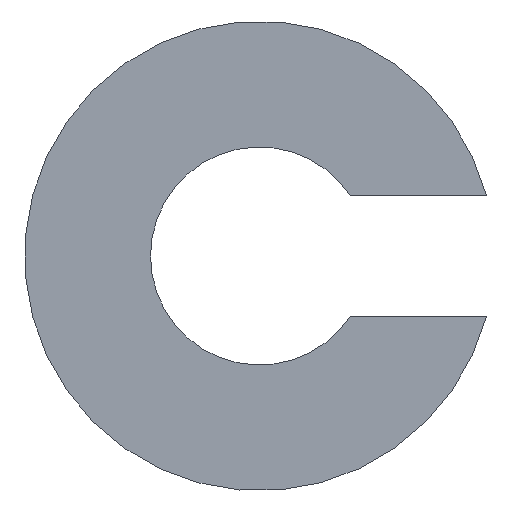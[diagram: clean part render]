
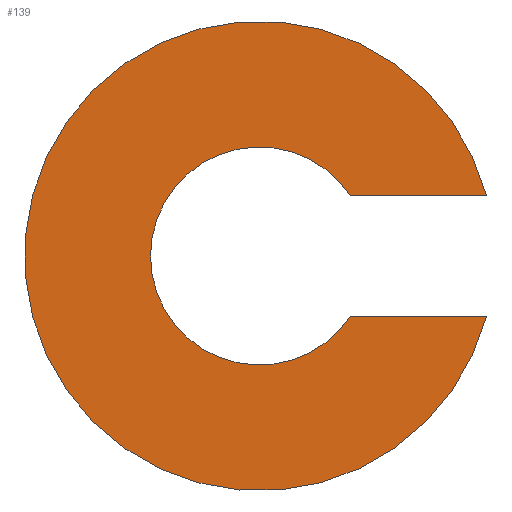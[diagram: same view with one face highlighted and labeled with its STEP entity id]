
A CAD part, front view. The second image highlights one B-rep face of the part: STEP entity #139.
In plain terms, the highlighted planar face has unit normal (0, -1, 0).
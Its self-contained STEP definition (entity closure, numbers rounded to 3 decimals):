
#21 = EDGE_CURVE('',#22,#24,#26,.T.);
#22 = VERTEX_POINT('',#23);
#23 = CARTESIAN_POINT('',(75.308,39.15,13.53));
#24 = VERTEX_POINT('',#25);
#25 = CARTESIAN_POINT('',(75.308,39.15,14.17));
#26 = SURFACE_CURVE('',#27,(#32,#44),.PCURVE_S1.);
#27 = CIRCLE('',#28,1.25);
#28 = AXIS2_PLACEMENT_3D('',#29,#30,#31);
#29 = CARTESIAN_POINT('',(74.1,39.15,13.85));
#30 = DIRECTION('',(0.,1.,0.));
#31 = DIRECTION('',(0.967,0.,-0.256));
#32 = PCURVE('',#33,#38);
#33 = CYLINDRICAL_SURFACE('',#34,1.25);
#34 = AXIS2_PLACEMENT_3D('',#35,#36,#37);
#35 = CARTESIAN_POINT('',(74.1,39.15,13.85));
#36 = DIRECTION('',(0.,1.,0.));
#37 = DIRECTION('',(0.,-0.,1.));
#38 = DEFINITIONAL_REPRESENTATION('',(#39),#43);
#39 = LINE('',#40,#41);
#40 = CARTESIAN_POINT('',(1.83,0.));
#41 = VECTOR('',#42,1.);
#42 = DIRECTION('',(1.,0.));
#43 = ( GEOMETRIC_REPRESENTATION_CONTEXT(2) 
PARAMETRIC_REPRESENTATION_CONTEXT() REPRESENTATION_CONTEXT('2D SPACE',''
  ) );
#44 = PCURVE('',#45,#50);
#45 = PLANE('',#46);
#46 = AXIS2_PLACEMENT_3D('',#47,#48,#49);
#47 = CARTESIAN_POINT('',(74.1,39.15,13.85));
#48 = DIRECTION('',(0.,1.,0.));
#49 = DIRECTION('',(0.,-0.,1.));
#50 = DEFINITIONAL_REPRESENTATION('',(#51),#55);
#51 = CIRCLE('',#52,1.25);
#52 = AXIS2_PLACEMENT_2D('',#53,#54);
#53 = CARTESIAN_POINT('',(0.,0.));
#54 = DIRECTION('',(-0.256,0.967));
#55 = ( GEOMETRIC_REPRESENTATION_CONTEXT(2) 
PARAMETRIC_REPRESENTATION_CONTEXT() REPRESENTATION_CONTEXT('2D SPACE',''
  ) );
#72 = PLANE('',#73);
#73 = AXIS2_PLACEMENT_3D('',#74,#75,#76);
#74 = CARTESIAN_POINT('',(74.1,39.1,14.17));
#75 = DIRECTION('',(0.,0.,1.));
#76 = DIRECTION('',(1.,0.,-0.));
#129 = PLANE('',#130);
#130 = AXIS2_PLACEMENT_3D('',#131,#132,#133);
#131 = CARTESIAN_POINT('',(74.1,39.1,13.53));
#132 = DIRECTION('',(0.,0.,1.));
#133 = DIRECTION('',(1.,0.,-0.));
#139 = ADVANCED_FACE('',(#140),#45,.F.);
#140 = FACE_BOUND('',#141,.F.);
#141 = EDGE_LOOP('',(#142,#143,#164,#193));
#142 = ORIENTED_EDGE('',*,*,#21,.T.);
#143 = ORIENTED_EDGE('',*,*,#144,.F.);
#144 = EDGE_CURVE('',#145,#24,#147,.T.);
#145 = VERTEX_POINT('',#146);
#146 = CARTESIAN_POINT('',(74.584,39.15,14.17));
#147 = SURFACE_CURVE('',#148,(#152,#158),.PCURVE_S1.);
#148 = LINE('',#149,#150);
#149 = CARTESIAN_POINT('',(74.1,39.15,14.17));
#150 = VECTOR('',#151,1.);
#151 = DIRECTION('',(1.,0.,0.));
#152 = PCURVE('',#45,#153);
#153 = DEFINITIONAL_REPRESENTATION('',(#154),#157);
#154 = B_SPLINE_CURVE_WITH_KNOTS('',1,(#155,#156),.UNSPECIFIED.,.F.,.F.,
  (2,2),(0.,1.25),.PIECEWISE_BEZIER_KNOTS.);
#155 = CARTESIAN_POINT('',(0.32,0.));
#156 = CARTESIAN_POINT('',(0.32,1.25));
#157 = ( GEOMETRIC_REPRESENTATION_CONTEXT(2) 
PARAMETRIC_REPRESENTATION_CONTEXT() REPRESENTATION_CONTEXT('2D SPACE',''
  ) );
#158 = PCURVE('',#72,#159);
#159 = DEFINITIONAL_REPRESENTATION('',(#160),#163);
#160 = B_SPLINE_CURVE_WITH_KNOTS('',1,(#161,#162),.UNSPECIFIED.,.F.,.F.,
  (2,2),(0.,1.25),.PIECEWISE_BEZIER_KNOTS.);
#161 = CARTESIAN_POINT('',(0.,0.05));
#162 = CARTESIAN_POINT('',(1.25,0.05));
#163 = ( GEOMETRIC_REPRESENTATION_CONTEXT(2) 
PARAMETRIC_REPRESENTATION_CONTEXT() REPRESENTATION_CONTEXT('2D SPACE',''
  ) );
#164 = ORIENTED_EDGE('',*,*,#165,.F.);
#165 = EDGE_CURVE('',#166,#145,#168,.T.);
#166 = VERTEX_POINT('',#167);
#167 = CARTESIAN_POINT('',(74.584,39.15,13.53));
#168 = SURFACE_CURVE('',#169,(#174,#181),.PCURVE_S1.);
#169 = CIRCLE('',#170,0.58);
#170 = AXIS2_PLACEMENT_3D('',#171,#172,#173);
#171 = CARTESIAN_POINT('',(74.1,39.15,13.85));
#172 = DIRECTION('',(0.,1.,0.));
#173 = DIRECTION('',(0.834,0.,-0.552));
#174 = PCURVE('',#45,#175);
#175 = DEFINITIONAL_REPRESENTATION('',(#176),#180);
#176 = CIRCLE('',#177,0.58);
#177 = AXIS2_PLACEMENT_2D('',#178,#179);
#178 = CARTESIAN_POINT('',(0.,0.));
#179 = DIRECTION('',(-0.552,0.834));
#180 = ( GEOMETRIC_REPRESENTATION_CONTEXT(2) 
PARAMETRIC_REPRESENTATION_CONTEXT() REPRESENTATION_CONTEXT('2D SPACE',''
  ) );
#181 = PCURVE('',#182,#187);
#182 = CYLINDRICAL_SURFACE('',#183,0.58);
#183 = AXIS2_PLACEMENT_3D('',#184,#185,#186);
#184 = CARTESIAN_POINT('',(74.1,39.1,13.85));
#185 = DIRECTION('',(0.,1.,0.));
#186 = DIRECTION('',(0.,-0.,1.));
#187 = DEFINITIONAL_REPRESENTATION('',(#188),#192);
#188 = LINE('',#189,#190);
#189 = CARTESIAN_POINT('',(2.155,0.05));
#190 = VECTOR('',#191,1.);
#191 = DIRECTION('',(1.,0.));
#192 = ( GEOMETRIC_REPRESENTATION_CONTEXT(2) 
PARAMETRIC_REPRESENTATION_CONTEXT() REPRESENTATION_CONTEXT('2D SPACE',''
  ) );
#193 = ORIENTED_EDGE('',*,*,#194,.T.);
#194 = EDGE_CURVE('',#166,#22,#195,.T.);
#195 = SURFACE_CURVE('',#196,(#200,#206),.PCURVE_S1.);
#196 = LINE('',#197,#198);
#197 = CARTESIAN_POINT('',(74.1,39.15,13.53));
#198 = VECTOR('',#199,1.);
#199 = DIRECTION('',(1.,0.,0.));
#200 = PCURVE('',#45,#201);
#201 = DEFINITIONAL_REPRESENTATION('',(#202),#205);
#202 = B_SPLINE_CURVE_WITH_KNOTS('',1,(#203,#204),.UNSPECIFIED.,.F.,.F.,
  (2,2),(0.,1.25),.PIECEWISE_BEZIER_KNOTS.);
#203 = CARTESIAN_POINT('',(-0.32,0.));
#204 = CARTESIAN_POINT('',(-0.32,1.25));
#205 = ( GEOMETRIC_REPRESENTATION_CONTEXT(2) 
PARAMETRIC_REPRESENTATION_CONTEXT() REPRESENTATION_CONTEXT('2D SPACE',''
  ) );
#206 = PCURVE('',#129,#207);
#207 = DEFINITIONAL_REPRESENTATION('',(#208),#211);
#208 = B_SPLINE_CURVE_WITH_KNOTS('',1,(#209,#210),.UNSPECIFIED.,.F.,.F.,
  (2,2),(0.,1.25),.PIECEWISE_BEZIER_KNOTS.);
#209 = CARTESIAN_POINT('',(0.,0.05));
#210 = CARTESIAN_POINT('',(1.25,0.05));
#211 = ( GEOMETRIC_REPRESENTATION_CONTEXT(2) 
PARAMETRIC_REPRESENTATION_CONTEXT() REPRESENTATION_CONTEXT('2D SPACE',''
  ) );
